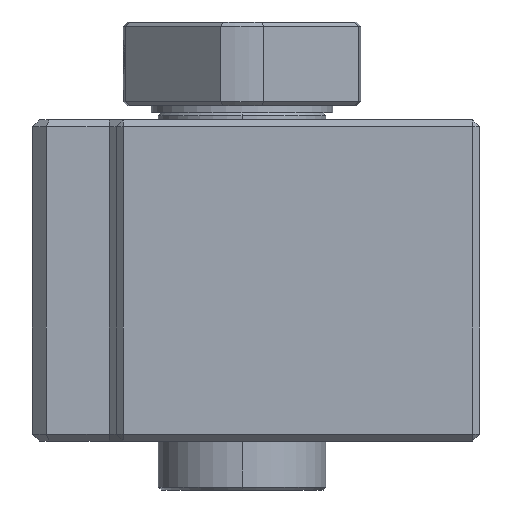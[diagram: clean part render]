
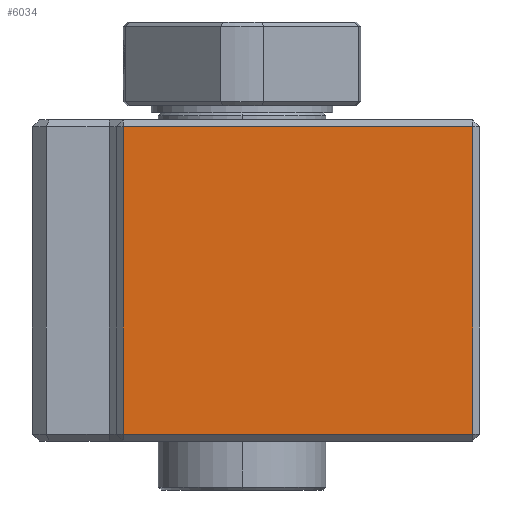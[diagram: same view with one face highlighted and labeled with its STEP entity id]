
A CAD part, left-side view. The second image highlights one B-rep face of the part: STEP entity #6034.
In plain terms, the highlighted planar face has unit normal (-1, 0, 0).
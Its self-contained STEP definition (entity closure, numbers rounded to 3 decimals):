
#1141 = ORIENTED_EDGE ( 'NONE', *, *, #4600, .T. ) ;
#1142 = ORIENTED_EDGE ( 'NONE', *, *, #4603, .T. ) ;
#1143 = ORIENTED_EDGE ( 'NONE', *, *, #4601, .T. ) ;
#1146 = ORIENTED_EDGE ( 'NONE', *, *, #4602, .T. ) ;
#1414 = CARTESIAN_POINT ( 'NONE',  ( -26., -16.5, 11. ) ) ;
#1415 = CARTESIAN_POINT ( 'NONE',  ( -26., -16.5, -11. ) ) ;
#1416 = CARTESIAN_POINT ( 'NONE',  ( -26., 8.5, -11. ) ) ;
#1417 = CARTESIAN_POINT ( 'NONE',  ( -26., 8.5, 11. ) ) ;
#1701 = VERTEX_POINT ( 'NONE', #1414 ) ;
#1702 = VERTEX_POINT ( 'NONE', #1415 ) ;
#1703 = VERTEX_POINT ( 'NONE', #1416 ) ;
#1704 = VERTEX_POINT ( 'NONE', #1417 ) ;
#1767 = PLANE ( 'NONE',  #5410 ) ;
#1768 = CARTESIAN_POINT ( 'NONE',  ( -26., 9., 11.5 ) ) ;
#1769 = DIRECTION ( 'NONE',  ( 1., 0., 0. ) ) ;
#1770 = DIRECTION ( 'NONE',  ( 0., 1., 0. ) ) ;
#3085 = EDGE_LOOP ( 'NONE', ( #1146, #1142, #1143, #1141 ) ) ;
#3631 = VECTOR ( 'NONE', #4041, 1000. ) ;
#3640 = VECTOR ( 'NONE', #4044, 1000. ) ;
#3651 = VECTOR ( 'NONE', #4047, 1000. ) ;
#3705 = VECTOR ( 'NONE', #4050, 1000. ) ;
#4039 = LINE ( 'NONE', #4040, #3631 ) ;
#4040 = CARTESIAN_POINT ( 'NONE',  ( -26., 9., 11. ) ) ;
#4041 = DIRECTION ( 'NONE',  ( 0., 1., 0. ) ) ;
#4042 = LINE ( 'NONE', #4043, #3640 ) ;
#4043 = CARTESIAN_POINT ( 'NONE',  ( -26., -16.5, 11.5 ) ) ;
#4044 = DIRECTION ( 'NONE',  ( 0., 0., 1. ) ) ;
#4045 = LINE ( 'NONE', #4046, #3651 ) ;
#4046 = CARTESIAN_POINT ( 'NONE',  ( -26., 8.5, 11.5 ) ) ;
#4047 = DIRECTION ( 'NONE',  ( 0., 0., -1. ) ) ;
#4048 = LINE ( 'NONE', #4049, #3705 ) ;
#4049 = CARTESIAN_POINT ( 'NONE',  ( -26., 9., -11. ) ) ;
#4050 = DIRECTION ( 'NONE',  ( 0., -1., 0. ) ) ;
#4600 = EDGE_CURVE ( 'NONE', #1701, #1704, #4039, .T. ) ;
#4601 = EDGE_CURVE ( 'NONE', #1702, #1701, #4042, .T. ) ;
#4602 = EDGE_CURVE ( 'NONE', #1704, #1703, #4045, .T. ) ;
#4603 = EDGE_CURVE ( 'NONE', #1703, #1702, #4048, .T. ) ;
#5403 = FACE_OUTER_BOUND ( 'NONE', #3085, .T. ) ;
#5410 = AXIS2_PLACEMENT_3D ( 'NONE', #1768, #1769, #1770 ) ;
#6034 = ADVANCED_FACE ( 'NONE', ( #5403 ), #1767, .F. ) ;
